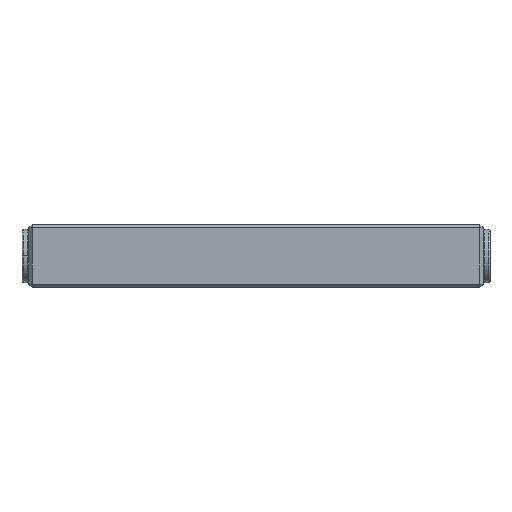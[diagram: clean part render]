
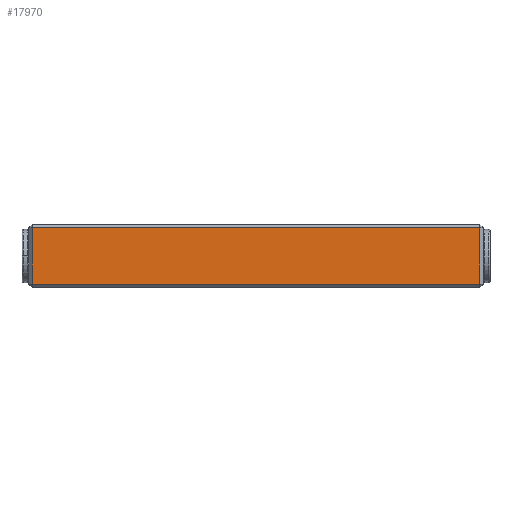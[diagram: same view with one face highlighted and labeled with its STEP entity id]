
A CAD part, top view. The second image highlights one B-rep face of the part: STEP entity #17970.
In plain terms, the highlighted planar face has unit normal (0, 0, 1).
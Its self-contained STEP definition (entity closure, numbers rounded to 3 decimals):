
#390 = EDGE_LOOP ( 'NONE', ( #643, #618, #633, #501 ) ) ;
#501 = ORIENTED_EDGE ( 'NONE', *, *, #10824, .T. ) ;
#618 = ORIENTED_EDGE ( 'NONE', *, *, #12165, .T. ) ;
#633 = ORIENTED_EDGE ( 'NONE', *, *, #12166, .T. ) ;
#643 = ORIENTED_EDGE ( 'NONE', *, *, #10830, .T. ) ;
#1205 = AXIS2_PLACEMENT_3D ( 'NONE', #4185, #4193, #4194 ) ;
#4185 = CARTESIAN_POINT ( 'NONE',  ( -105.412, -6.861, 44.55 ) ) ;
#4190 = PLANE ( 'NONE',  #1205 ) ;
#4193 = DIRECTION ( 'NONE',  ( 0., 0., -1. ) ) ;
#4194 = DIRECTION ( 'NONE',  ( 1., 0., 0. ) ) ;
#5065 = DIRECTION ( 'NONE',  ( 0., 1., 0. ) ) ;
#5067 = CARTESIAN_POINT ( 'NONE',  ( 93.088, -6.861, 44.55 ) ) ;
#5073 = DIRECTION ( 'NONE',  ( -1., 0., 0. ) ) ;
#5074 = CARTESIAN_POINT ( 'NONE',  ( -105.412, 19.639, 44.55 ) ) ;
#5102 = DIRECTION ( 'NONE',  ( 0., -1., 0. ) ) ;
#5103 = CARTESIAN_POINT ( 'NONE',  ( -103.912, -6.861, 44.55 ) ) ;
#5105 = CARTESIAN_POINT ( 'NONE',  ( 94.588, -5.361, 44.55 ) ) ;
#5106 = DIRECTION ( 'NONE',  ( 1., 0., 0. ) ) ;
#5389 = CARTESIAN_POINT ( 'NONE',  ( -103.912, -5.361, 44.55 ) ) ;
#5391 = CARTESIAN_POINT ( 'NONE',  ( 93.088, -5.361, 44.55 ) ) ;
#5394 = CARTESIAN_POINT ( 'NONE',  ( -103.912, 19.639, 44.55 ) ) ;
#5395 = CARTESIAN_POINT ( 'NONE',  ( 93.088, 19.639, 44.55 ) ) ;
#10824 = EDGE_CURVE ( 'NONE', #15470, #15474, #11047, .T. ) ;
#10830 = EDGE_CURVE ( 'NONE', #15474, #15473, #11057, .T. ) ;
#11047 = LINE ( 'NONE', #5067, #11054 ) ;
#11054 = VECTOR ( 'NONE', #5065, 1000. ) ;
#11057 = LINE ( 'NONE', #5074, #11060 ) ;
#11060 = VECTOR ( 'NONE', #5073, 1000. ) ;
#11067 = LINE ( 'NONE', #5103, #11069 ) ;
#11069 = VECTOR ( 'NONE', #5102, 1000. ) ;
#11070 = LINE ( 'NONE', #5105, #11073 ) ;
#11073 = VECTOR ( 'NONE', #5106, 1000. ) ;
#12165 = EDGE_CURVE ( 'NONE', #15473, #15468, #11067, .T. ) ;
#12166 = EDGE_CURVE ( 'NONE', #15468, #15470, #11070, .T. ) ;
#15468 = VERTEX_POINT ( 'NONE', #5389 ) ;
#15470 = VERTEX_POINT ( 'NONE', #5391 ) ;
#15473 = VERTEX_POINT ( 'NONE', #5394 ) ;
#15474 = VERTEX_POINT ( 'NONE', #5395 ) ;
#15986 = FACE_OUTER_BOUND ( 'NONE', #390, .T. ) ;
#17970 = ADVANCED_FACE ( 'NONE', ( #15986 ), #4190, .F. ) ;
